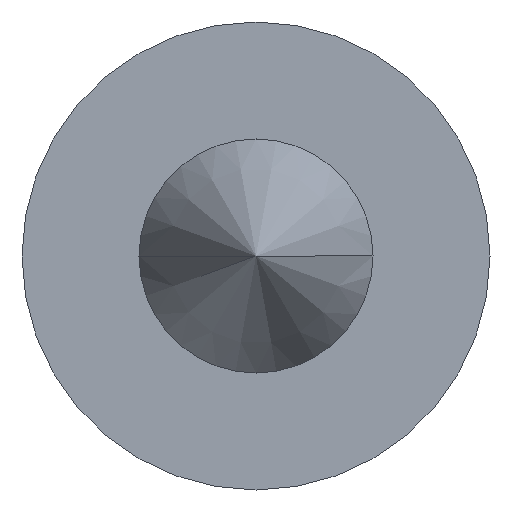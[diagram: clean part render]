
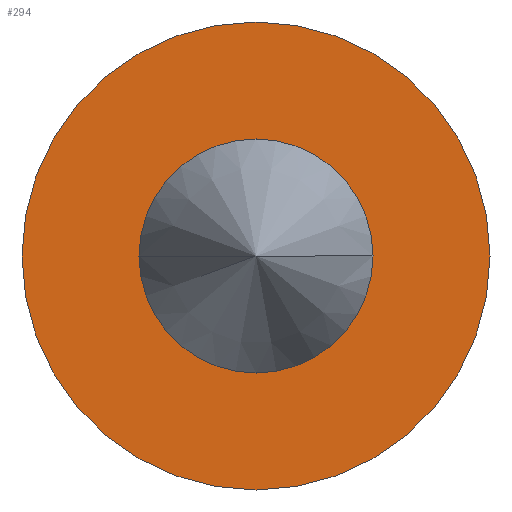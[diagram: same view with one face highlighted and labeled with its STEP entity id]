
A CAD part, front view. The second image highlights one B-rep face of the part: STEP entity #294.
In plain terms, the highlighted planar face has unit normal (0, -1, 0).
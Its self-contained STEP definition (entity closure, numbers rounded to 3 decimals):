
#2 = ORIENTED_EDGE ( 'NONE', *, *, #804, .T. ) ;
#10 = CARTESIAN_POINT ( 'NONE',  ( 3., 0., 0. ) ) ;
#81 = CARTESIAN_POINT ( 'NONE',  ( 0., 0., 3. ) ) ;
#88 = FACE_OUTER_BOUND ( 'NONE', #575, .T. ) ;
#113 = ORIENTED_EDGE ( 'NONE', *, *, #854, .T. ) ;
#160 = EDGE_LOOP ( 'NONE', ( #653, #113 ) ) ;
#191 = DIRECTION ( 'NONE',  ( 0., 1., 0. ) ) ;
#203 = CIRCLE ( 'NONE', #321, 1.5 ) ;
#209 = VERTEX_POINT ( 'NONE', #81 ) ;
#240 = AXIS2_PLACEMENT_3D ( 'NONE', #10, #328, #632 ) ;
#269 = CARTESIAN_POINT ( 'NONE',  ( -1.5, 0., 0. ) ) ;
#288 = CARTESIAN_POINT ( 'NONE',  ( 0., 0., 0. ) ) ;
#294 = ADVANCED_FACE ( 'NONE', ( #651, #88 ), #712, .T. ) ;
#299 = DIRECTION ( 'NONE',  ( 0., 1., 0. ) ) ;
#311 = CARTESIAN_POINT ( 'NONE',  ( 0., 0., 0. ) ) ;
#321 = AXIS2_PLACEMENT_3D ( 'NONE', #574, #191, #828 ) ;
#328 = DIRECTION ( 'NONE',  ( 0., -1., 0. ) ) ;
#382 = AXIS2_PLACEMENT_3D ( 'NONE', #476, #715, #1027 ) ;
#405 = AXIS2_PLACEMENT_3D ( 'NONE', #311, #299, #461 ) ;
#426 = CIRCLE ( 'NONE', #382, 3. ) ;
#452 = DIRECTION ( 'NONE',  ( 0., -1., 0. ) ) ;
#461 = DIRECTION ( 'NONE',  ( -1., 0., 0. ) ) ;
#468 = AXIS2_PLACEMENT_3D ( 'NONE', #288, #452, #599 ) ;
#476 = CARTESIAN_POINT ( 'NONE',  ( 0., 0., 0. ) ) ;
#477 = EDGE_CURVE ( 'NONE', #209, #839, #426, .T. ) ;
#574 = CARTESIAN_POINT ( 'NONE',  ( 0., 0., 0. ) ) ;
#575 = EDGE_LOOP ( 'NONE', ( #2, #753 ) ) ;
#599 = DIRECTION ( 'NONE',  ( 0., 0., -1. ) ) ;
#611 = CARTESIAN_POINT ( 'NONE',  ( 1.5, 0., 0. ) ) ;
#632 = DIRECTION ( 'NONE',  ( 0., 0., -1. ) ) ;
#640 = CIRCLE ( 'NONE', #468, 3. ) ;
#651 = FACE_BOUND ( 'NONE', #160, .T. ) ;
#653 = ORIENTED_EDGE ( 'NONE', *, *, #982, .T. ) ;
#712 = PLANE ( 'NONE',  #240 ) ;
#715 = DIRECTION ( 'NONE',  ( 0., -1., 0. ) ) ;
#753 = ORIENTED_EDGE ( 'NONE', *, *, #477, .T. ) ;
#804 = EDGE_CURVE ( 'NONE', #839, #209, #640, .T. ) ;
#808 = CARTESIAN_POINT ( 'NONE',  ( 0., 0., -3. ) ) ;
#825 = VERTEX_POINT ( 'NONE', #611 ) ;
#828 = DIRECTION ( 'NONE',  ( -1., 0., 0. ) ) ;
#839 = VERTEX_POINT ( 'NONE', #808 ) ;
#854 = EDGE_CURVE ( 'NONE', #825, #934, #203, .T. ) ;
#934 = VERTEX_POINT ( 'NONE', #269 ) ;
#982 = EDGE_CURVE ( 'NONE', #934, #825, #1014, .T. ) ;
#1014 = CIRCLE ( 'NONE', #405, 1.5 ) ;
#1027 = DIRECTION ( 'NONE',  ( 0., 0., -1. ) ) ;
